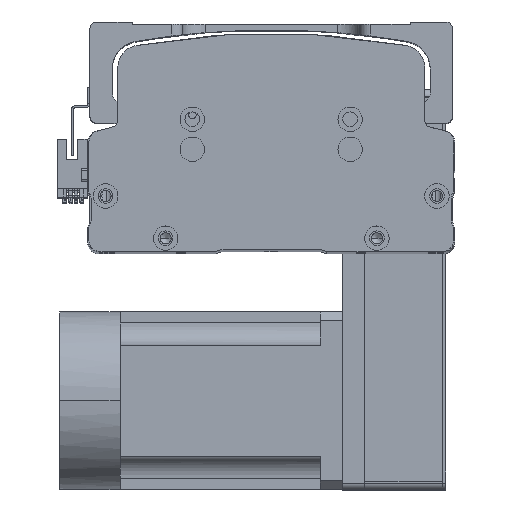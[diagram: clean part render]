
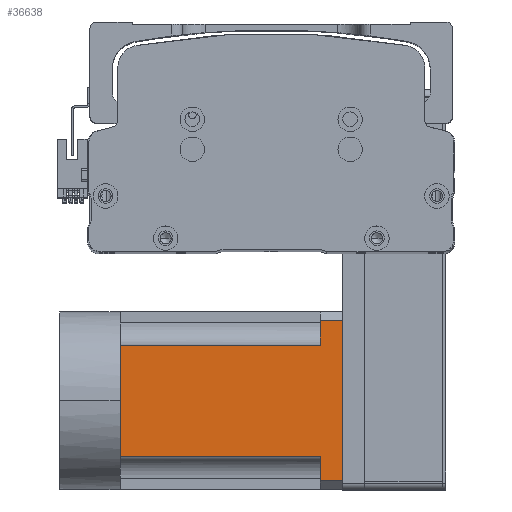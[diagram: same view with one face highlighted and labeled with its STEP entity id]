
A CAD part, top view. The second image highlights one B-rep face of the part: STEP entity #36638.
In plain terms, the highlighted planar face has unit normal (0, 0, 1) as drawn and (0, 0, -1) by its records, which use the part's own axes.
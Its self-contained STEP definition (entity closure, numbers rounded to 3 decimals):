
#1411 = VECTOR ( 'NONE', #52636, 1000. ) ;
#1537 = ORIENTED_EDGE ( 'NONE', *, *, #33309, .T. ) ;
#2637 = VERTEX_POINT ( 'NONE', #11482 ) ;
#2870 = ORIENTED_EDGE ( 'NONE', *, *, #21401, .T. ) ;
#3080 = DIRECTION ( 'NONE',  ( -1., 0., 0. ) ) ;
#4866 = EDGE_CURVE ( 'NONE', #18337, #23417, #37783, .T. ) ;
#5348 = VERTEX_POINT ( 'NONE', #59075 ) ;
#5510 = DIRECTION ( 'NONE',  ( 0., 1., 0. ) ) ;
#7165 = EDGE_CURVE ( 'NONE', #15323, #58450, #50679, .T. ) ;
#7429 = ORIENTED_EDGE ( 'NONE', *, *, #13376, .F. ) ;
#8358 = VECTOR ( 'NONE', #60550, 1000. ) ;
#9528 = LINE ( 'NONE', #35980, #22052 ) ;
#10371 = CARTESIAN_POINT ( 'NONE',  ( 25., -27., -40. ) ) ;
#10993 = ORIENTED_EDGE ( 'NONE', *, *, #13613, .T. ) ;
#11000 = VECTOR ( 'NONE', #11188, 1000. ) ;
#11188 = DIRECTION ( 'NONE',  ( 0., -1., 0. ) ) ;
#11482 = CARTESIAN_POINT ( 'NONE',  ( 36., 90., -40. ) ) ;
#13376 = EDGE_CURVE ( 'NONE', #5348, #23417, #9528, .T. ) ;
#13613 = EDGE_CURVE ( 'NONE', #2637, #43513, #55795, .T. ) ;
#13911 = LINE ( 'NONE', #10371, #1411 ) ;
#14783 = CARTESIAN_POINT ( 'NONE',  ( -25., -27., -40. ) ) ;
#15323 = VERTEX_POINT ( 'NONE', #59372 ) ;
#16080 = DIRECTION ( 'NONE',  ( -1., 0., 0. ) ) ;
#18337 = VERTEX_POINT ( 'NONE', #33680 ) ;
#18427 = VECTOR ( 'NONE', #57845, 1000. ) ;
#21336 = EDGE_CURVE ( 'NONE', #43513, #26064, #13911, .T. ) ;
#21401 = EDGE_CURVE ( 'NONE', #5348, #2637, #35995, .T. ) ;
#22052 = VECTOR ( 'NONE', #3080, 1000. ) ;
#23417 = VERTEX_POINT ( 'NONE', #60972 ) ;
#24019 = DIRECTION ( 'NONE',  ( -1., 0., 0. ) ) ;
#24646 = EDGE_CURVE ( 'NONE', #58450, #18337, #37683, .T. ) ;
#24974 = CARTESIAN_POINT ( 'NONE',  ( -40., 0., -40. ) ) ;
#25219 = VECTOR ( 'NONE', #16080, 1000. ) ;
#25329 = CARTESIAN_POINT ( 'NONE',  ( -40., 0., -40. ) ) ;
#25709 = CARTESIAN_POINT ( 'NONE',  ( -40., -27., -40. ) ) ;
#25916 = DIRECTION ( 'NONE',  ( -1., 0., 0. ) ) ;
#26064 = VERTEX_POINT ( 'NONE', #59674 ) ;
#26343 = ORIENTED_EDGE ( 'NONE', *, *, #44442, .T. ) ;
#27618 = EDGE_LOOP ( 'NONE', ( #7429, #2870, #10993, #53488, #1537, #26343, #30694, #45864, #31539 ) ) ;
#27671 = CARTESIAN_POINT ( 'NONE',  ( 0., 0., -40. ) ) ;
#27723 = CARTESIAN_POINT ( 'NONE',  ( -36., -27., -40. ) ) ;
#28767 = CARTESIAN_POINT ( 'NONE',  ( -40., 90., -40. ) ) ;
#29128 = CARTESIAN_POINT ( 'NONE',  ( -25., 90., -40. ) ) ;
#30694 = ORIENTED_EDGE ( 'NONE', *, *, #7165, .T. ) ;
#30833 = VECTOR ( 'NONE', #24019, 1000. ) ;
#31539 = ORIENTED_EDGE ( 'NONE', *, *, #4866, .T. ) ;
#33309 = EDGE_CURVE ( 'NONE', #26064, #37399, #45893, .T. ) ;
#33424 = VECTOR ( 'NONE', #58184, 1000. ) ;
#33680 = CARTESIAN_POINT ( 'NONE',  ( -36., 90., -40. ) ) ;
#35980 = CARTESIAN_POINT ( 'NONE',  ( -40., 100., -40. ) ) ;
#35995 = LINE ( 'NONE', #39277, #11000 ) ;
#36638 = ADVANCED_FACE ( 'NONE', ( #50598 ), #49278, .T. ) ;
#37399 = VERTEX_POINT ( 'NONE', #27671 ) ;
#37683 = LINE ( 'NONE', #43990, #25219 ) ;
#37783 = LINE ( 'NONE', #27723, #8358 ) ;
#39277 = CARTESIAN_POINT ( 'NONE',  ( 36., -27., -40. ) ) ;
#43513 = VERTEX_POINT ( 'NONE', #45006 ) ;
#43990 = CARTESIAN_POINT ( 'NONE',  ( -40., 90., -40. ) ) ;
#44442 = EDGE_CURVE ( 'NONE', #37399, #15323, #54425, .T. ) ;
#45006 = CARTESIAN_POINT ( 'NONE',  ( 25., 90., -40. ) ) ;
#45864 = ORIENTED_EDGE ( 'NONE', *, *, #24646, .T. ) ;
#45893 = LINE ( 'NONE', #25329, #33424 ) ;
#46270 = VECTOR ( 'NONE', #5510, 1000. ) ;
#49278 = PLANE ( 'NONE',  #54971 ) ;
#50598 = FACE_OUTER_BOUND ( 'NONE', #27618, .T. ) ;
#50679 = LINE ( 'NONE', #14783, #46270 ) ;
#52636 = DIRECTION ( 'NONE',  ( 0., -1., 0. ) ) ;
#53488 = ORIENTED_EDGE ( 'NONE', *, *, #21336, .T. ) ;
#54026 = DIRECTION ( 'NONE',  ( 0., 0., -1. ) ) ;
#54425 = LINE ( 'NONE', #24974, #18427 ) ;
#54971 = AXIS2_PLACEMENT_3D ( 'NONE', #25709, #54026, #25916 ) ;
#55795 = LINE ( 'NONE', #28767, #30833 ) ;
#57845 = DIRECTION ( 'NONE',  ( -1., 0., 0. ) ) ;
#58184 = DIRECTION ( 'NONE',  ( -1., 0., 0. ) ) ;
#58450 = VERTEX_POINT ( 'NONE', #29128 ) ;
#59075 = CARTESIAN_POINT ( 'NONE',  ( 36., 100., -40. ) ) ;
#59372 = CARTESIAN_POINT ( 'NONE',  ( -25., 0., -40. ) ) ;
#59674 = CARTESIAN_POINT ( 'NONE',  ( 25., 0., -40. ) ) ;
#60550 = DIRECTION ( 'NONE',  ( 0., 1., 0. ) ) ;
#60972 = CARTESIAN_POINT ( 'NONE',  ( -36., 100., -40. ) ) ;
